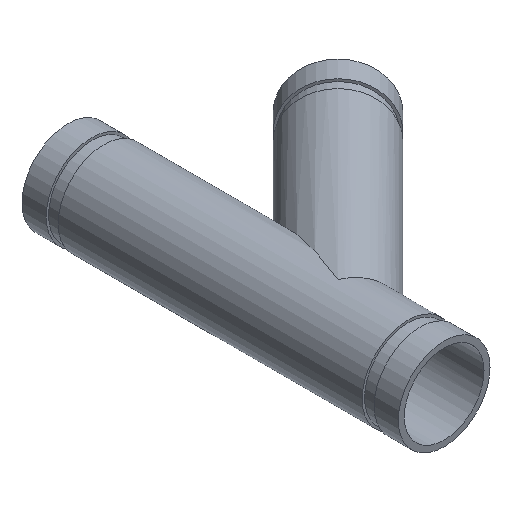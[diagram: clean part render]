
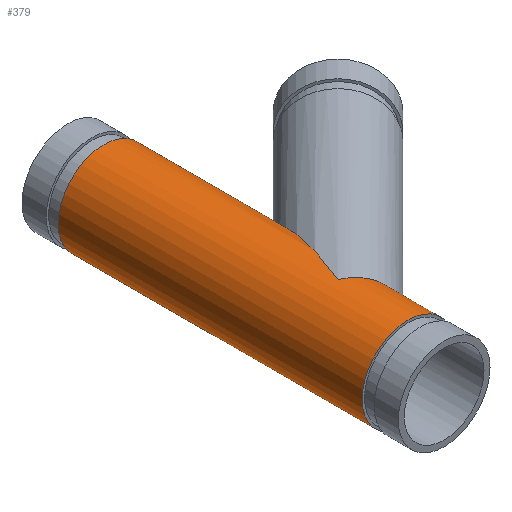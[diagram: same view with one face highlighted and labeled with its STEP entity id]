
A CAD part, isometric view. The second image highlights one B-rep face of the part: STEP entity #379.
In plain terms, the highlighted cylindrical face has radius 30.163 mm (diameter 60.325 mm), a full revolution.
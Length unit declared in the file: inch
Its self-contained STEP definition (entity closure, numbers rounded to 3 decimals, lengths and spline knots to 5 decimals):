
#45=ELLIPSE('',#439,3.10309,1.1875);
#46=ELLIPSE('',#440,3.10309,1.1875);
#47=ELLIPSE('',#441,1.28534,1.1875);
#57=LINE('',#676,#68);
#68=VECTOR('',#544,1.1875);
#79=CYLINDRICAL_SURFACE('',#438,1.1875);
#90=FACE_BOUND('',#131,.T.);
#105=FACE_OUTER_BOUND('',#130,.T.);
#130=EDGE_LOOP('',(#292,#293,#294,#295));
#131=EDGE_LOOP('',(#296,#297,#298));
#154=CIRCLE('',#426,1.1875);
#155=CIRCLE('',#428,1.1875);
#181=VERTEX_POINT('',#653);
#182=VERTEX_POINT('',#656);
#189=VERTEX_POINT('',#677);
#190=VERTEX_POINT('',#678);
#191=VERTEX_POINT('',#680);
#218=EDGE_CURVE('',#181,#181,#154,.T.);
#219=EDGE_CURVE('',#182,#182,#155,.T.);
#228=EDGE_CURVE('',#181,#182,#57,.T.);
#229=EDGE_CURVE('',#189,#190,#45,.T.);
#230=EDGE_CURVE('',#190,#191,#46,.T.);
#231=EDGE_CURVE('',#191,#189,#47,.T.);
#292=ORIENTED_EDGE('',*,*,#218,.T.);
#293=ORIENTED_EDGE('',*,*,#228,.T.);
#294=ORIENTED_EDGE('',*,*,#219,.T.);
#295=ORIENTED_EDGE('',*,*,#228,.F.);
#296=ORIENTED_EDGE('',*,*,#229,.T.);
#297=ORIENTED_EDGE('',*,*,#230,.T.);
#298=ORIENTED_EDGE('',*,*,#231,.T.);
#379=ADVANCED_FACE('',(#105,#90),#79,.T.);
#426=AXIS2_PLACEMENT_3D('',#654,#516,#517);
#428=AXIS2_PLACEMENT_3D('',#657,#520,#521);
#438=AXIS2_PLACEMENT_3D('',#675,#542,#543);
#439=AXIS2_PLACEMENT_3D('',#679,#545,#546);
#440=AXIS2_PLACEMENT_3D('',#681,#547,#548);
#441=AXIS2_PLACEMENT_3D('',#682,#549,#550);
#516=DIRECTION('center_axis',(0.,1.,0.));
#517=DIRECTION('ref_axis',(1.,0.,0.));
#520=DIRECTION('center_axis',(0.,-1.,0.));
#521=DIRECTION('ref_axis',(1.,0.,0.));
#542=DIRECTION('center_axis',(0.,-1.,0.));
#543=DIRECTION('ref_axis',(1.,0.,0.));
#544=DIRECTION('',(0.,1.,0.));
#545=DIRECTION('center_axis',(-0.924,0.383,0.));
#546=DIRECTION('ref_axis',(-0.383,-0.924,0.));
#547=DIRECTION('center_axis',(-0.924,0.383,0.));
#548=DIRECTION('ref_axis',(-0.383,-0.924,0.));
#549=DIRECTION('center_axis',(-0.383,-0.924,0.));
#550=DIRECTION('ref_axis',(0.924,-0.383,0.));
#653=CARTESIAN_POINT('',(-1.1875,-1.812,0.));
#654=CARTESIAN_POINT('Origin',(0.,-1.812,0.));
#656=CARTESIAN_POINT('',(-1.1875,6.062,0.));
#657=CARTESIAN_POINT('Origin',(0.,6.062,0.));
#675=CARTESIAN_POINT('Origin',(0.,7.,0.));
#676=CARTESIAN_POINT('',(-1.1875,7.,0.));
#677=CARTESIAN_POINT('',(0.,0.,1.1875));
#678=CARTESIAN_POINT('',(1.1875,2.86688,0.));
#679=CARTESIAN_POINT('Origin',(0.,0.,
0.));
#680=CARTESIAN_POINT('',(0.,0.,-1.1875));
#681=CARTESIAN_POINT('Origin',(0.,0.,
0.));
#682=CARTESIAN_POINT('Origin',(0.,0.,0.));
